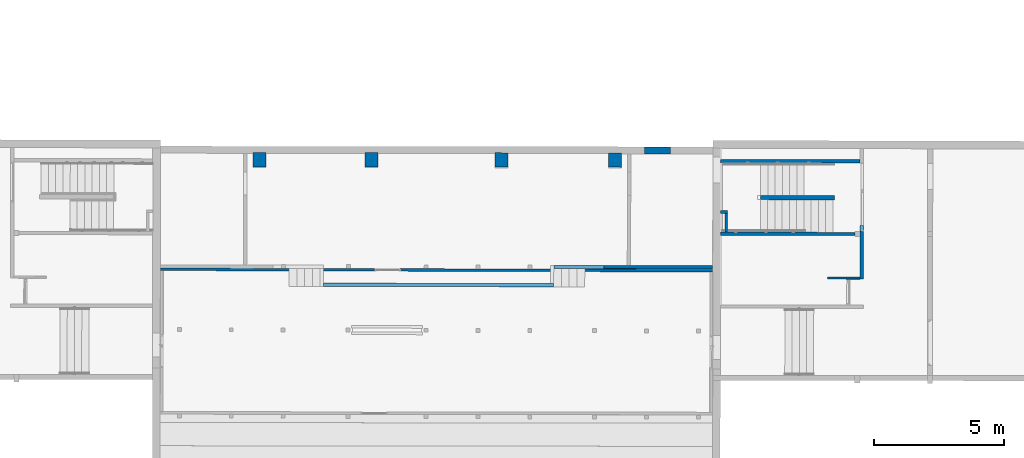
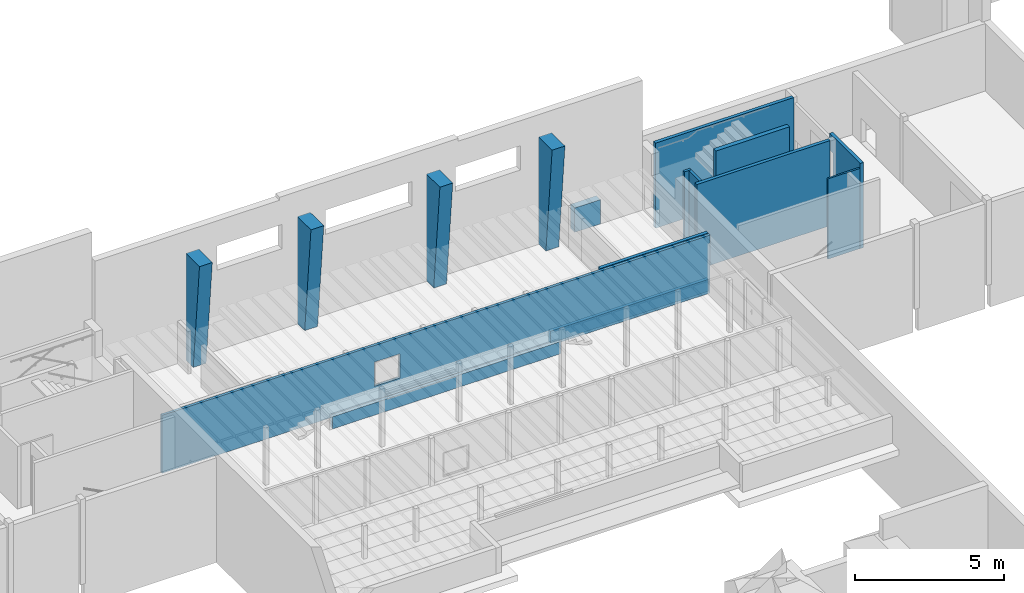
# One storey, part 9 of 24: 16 walls, 2 openings.
"""IFC2X3 building model written with IfcOpenShell, lengths in metres."""

from ifc_helpers import new_model, entity, si_unit, converted_unit, derived_unit, direction, frame, frame_2d, origin, place, context, subcontext, project, spatial, polyline, rectangle, outline, extrude, clip, halfspace, bounded_halfspace, material, layer, layer_set, layer_usage, type_object, element, save


model = new_model("IFC2X3")

# Units and contexts
model_context = context("Model", 3, precision=1e-05, world=origin(), true_north=direction((6.123233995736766e-17, 1.0)))
body_context = subcontext(model_context, "Body", "Model", "MODEL_VIEW")
ifc_project = project(units=[si_unit("LENGTHUNIT", "METRE"), si_unit("AREAUNIT", "SQUARE_METRE"), converted_unit("PLANEANGLEUNIT", "DEGREE", entity("IfcPlaneAngleMeasure", 0.017453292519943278), si_unit("PLANEANGLEUNIT", "RADIAN"), dimensions=[0, 0, 0, 0, 0, 0, 0]), derived_unit("THERMALTRANSMITTANCEUNIT", [(si_unit("MASSUNIT", "GRAM", prefix="KILO"), 1), (si_unit("THERMODYNAMICTEMPERATUREUNIT", "KELVIN"), -1), (si_unit("TIMEUNIT", "SECOND"), -3)])], contexts=[model_context])

# Site, building, storey
site_placement = place(None, frame((1253.6752467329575, 2072.143113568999, 91.49999999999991), z_axis=(0.0, 0.0, 1.0), x_axis=(0.7237211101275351, 0.6900925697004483, 0.0)))
site = spatial("IfcSite", under=ifc_project, at=site_placement, Name="Surface", CompositionType="ELEMENT")
building_placement = place(site_placement, origin())
building = spatial("IfcBuilding", under=site, at=building_placement, CompositionType="ELEMENT")
storey_placement = place(building_placement, frame((0.0, 0.0, -7.049999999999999)))
storey = spatial("IfcBuildingStorey", under=building, at=storey_placement, Name="R-1", CompositionType="ELEMENT", Elevation=-7.049999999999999)

# Walls
ifc_material_1 = material(Name="OMD_Béton blanc")
ifc_layer_1 = layer(ifc_material_1, 0.12999999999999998)
ifc_layer_set_1 = layer_set([ifc_layer_1], Name="Mur de base:MUR 13")
ifc_layer_usage_1 = layer_usage(ifc_layer_set_1, "AXIS2", "NEGATIVE", 0.06499999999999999)
wall_type_1 = type_object("IfcWallType", Name="Mur de base:MUR 13", PredefinedType="STANDARD", material=ifc_layer_set_1)
wall_1_placement = place(storey_placement, frame((195.20702705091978, -1.0797721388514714, 0.0), z_axis=(0.0, 0.0, 1.0), x_axis=(-0.7228702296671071, 0.6909838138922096, 0.0)))
element("IfcWallStandardCase", 1, at=wall_1_placement, inside=storey, type_object=wall_type_1, material=ifc_layer_usage_1, Name="Mur de base:MUR 13", ObjectType="Mur de base:MUR 13", context=body_context, shape_type="SweptSolid", body=[
    extrude(outline(polyline([(-0.06369331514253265, -2.6864775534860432), (0.06630670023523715, -2.6864775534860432), (0.06369329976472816, 2.686509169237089), (-0.06630668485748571, 2.686445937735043), (-0.06369331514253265, -2.6864775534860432)])), frame((2.686477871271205, 0.0, 0.0), z_axis=(0.0, 0.0, 1.0), x_axis=(0.0004863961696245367, 0.9999998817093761, 0.0)), (0.0, 0.0, 1.0), 3.499999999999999),
])
ifc_layer_usage_2 = layer_usage(ifc_layer_set_1, "AXIS2", "NEGATIVE", 0.06499999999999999)
wall_2_placement = place(storey_placement, frame((193.12769832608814, -2.965612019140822, 0.0), z_axis=(0.0, 0.0, 1.0), x_axis=(-0.7228702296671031, 0.6909838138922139, 0.0)))
element("IfcWallStandardCase", 2, at=wall_2_placement, inside=storey, type_object=wall_type_1, material=ifc_layer_usage_2, Name="Mur de base:MUR 13", ObjectType="Mur de base:MUR 13", context=body_context, shape_type="SweptSolid", body=[
    extrude(outline(polyline([(-0.06374162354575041, -2.5871585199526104), (0.06625839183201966, -2.5871585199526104), (0.06374160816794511, 2.587190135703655), (-0.0662583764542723, 2.5871269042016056), (-0.06374162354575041, -2.5871585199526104)])), frame((2.587158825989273, 0.0, 0.0), z_axis=(0.0, 0.0, 1.0), x_axis=(0.00048639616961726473, 0.9999998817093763, 0.0)), (0.0, 0.0, 1.0), 3.499999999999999),
])

# Wall, opening
ifc_layer_usage_3 = layer_usage(ifc_layer_set_1, "AXIS2", "NEGATIVE", 0.06499999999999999)
wall_3_placement = place(storey_placement, frame((193.54037648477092, -2.9174068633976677, 0.0), z_axis=(0.0, 0.0, 1.0), x_axis=(-0.690983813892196, -0.7228702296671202, 0.0)))
wall_3 = element("IfcWallStandardCase", 3, at=wall_3_placement, inside=storey, type_object=wall_type_1, material=ifc_layer_usage_3, Name="Mur de base:MUR 13", ObjectType="Mur de base:MUR 13", context=body_context, shape_type="SweptSolid", body=[
    extrude(rectangle(XDim=2.0549972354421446, YDim=0.12999999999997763, at=frame_2d((1.0274986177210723, 1.8735013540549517e-15), x_axis=(-1.0, 0.0))), origin(), (0.0, 0.0, 1.0), 3.499999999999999),
])
opening_1_placement = place(wall_3_placement, frame((131.6243609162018, -141.92045732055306, 0.7299999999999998)))
element("IfcOpeningElement", 4, at=opening_1_placement, cuts=wall_3, Name="Mur de base:MUR 13", ObjectType="Opening", context=body_context, shape_type="SweptSolid", body=[
    extrude(rectangle(XDim=2.085, YDim=1.5499999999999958, at=frame_2d((-3.3306690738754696e-16, 5.551115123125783e-17), x_axis=(1.0, 0.0))), frame((-132.17936091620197, 140.3614573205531, 1.0425000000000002), z_axis=(0.0, 1.0, 0.0), x_axis=(0.0, 0.0, 1.0)), (0.0, 0.0, 1.0), 3.048),
])

# Walls
ifc_layer_usage_4 = layer_usage(ifc_layer_set_1, "AXIS2", "NEGATIVE", 0.06499999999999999)
wall_4_placement = place(storey_placement, frame((185.25296293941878, 2.7841301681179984, 0.0), z_axis=(0.0, 0.0, 1.0), x_axis=(0.7228702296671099, -0.6909838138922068, 0.0)))
element("IfcWallStandardCase", 5, at=wall_4_placement, inside=storey, type_object=wall_type_1, material=ifc_layer_usage_4, Name="Mur de base:MUR 13", ObjectType="Mur de base:MUR 13", context=body_context, shape_type="SweptSolid", body=[
    extrude(outline(polyline([(-0.08546358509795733, -2.4734809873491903), (0.04453643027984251, -2.4734809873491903), (0.042996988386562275, 0.6915145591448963), (0.042933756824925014, 0.8215146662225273), (0.04249819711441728, 1.7169979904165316), (-0.08750178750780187, 1.716934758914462), (-0.08546358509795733, -2.4734809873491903)])), frame((1.7169771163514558, 0.021666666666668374, 0.0), z_axis=(0.0, 0.0, 1.0), x_axis=(0.00048639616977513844, 0.999999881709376, 0.0)), (0.0, 0.0, 1.0), 2.3950000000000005),
])
ifc_layer_usage_5 = layer_usage(ifc_layer_set_1, "AXIS2", "POSITIVE", -0.06499999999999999)
wall_5_placement = place(storey_placement, frame((176.95812200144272, 9.744585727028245, 0.0), z_axis=(0.0, 0.0, 1.0), x_axis=(0.7228704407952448, -0.6909835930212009, 0.0)))
element("IfcWallStandardCase", 6, at=wall_5_placement, inside=storey, type_object=wall_type_1, material=ifc_layer_usage_5, Name="Mur de base:MUR 13", ObjectType="Mur de base:MUR 13", context=body_context, shape_type="Clipping", body=[
    clip(extrude(outline(polyline([(0.0, -0.06499999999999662), (8.870089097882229, -0.06499999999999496), (8.870267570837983, 0.06499999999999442), (8.740267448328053, 0.06499999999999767), (0.00017847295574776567, 0.06500000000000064), (0.0, -0.06499999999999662)])), origin(), (0.0, 0.0, 1.0), 0.49999999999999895), bounded_halfspace(frame((0.0, -0.0649999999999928, 0.49999999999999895), z_axis=(0.0, 0.0, -1.0), x_axis=(3.055472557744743e-07, 1.0, 0.0)), True, frame((0.0, -0.0649999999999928, 0.49999999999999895)), polyline([(0.0, 0.0), (8.870089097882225, 0.0), (8.870267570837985, 0.1299999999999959), (8.74026744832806, 0.12999999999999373), (0.00017847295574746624, 0.12999999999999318), (0.0, 0.0)]))),
])
ifc_layer_usage_6 = layer_usage(ifc_layer_set_1, "AXIS2", "POSITIVE", -0.06499999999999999)
wall_6_placement = place(storey_placement, frame((183.85455854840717, 4.120849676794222, 0.0), z_axis=(0.0, 0.0, 1.0), x_axis=(0.7219211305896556, -0.6919753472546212, 0.0)))
element("IfcWallStandardCase", 7, at=wall_6_placement, inside=storey, type_object=wall_type_1, material=ifc_layer_usage_6, Name="Mur de base:MUR 13", ObjectType="Mur de base:MUR 13", context=body_context, shape_type="SweptSolid", body=[
    extrude(outline(polyline([(-0.0677138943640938, -3.0624817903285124), (0.06228615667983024, -3.0624817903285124), (0.06771384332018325, 3.0624241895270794), (-0.062286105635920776, 3.0625393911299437), (-0.0677138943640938, -3.0624817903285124)])), frame((3.0624829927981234, 0.0, 0.0), z_axis=(0.0, 0.0, 1.0), x_axis=(-0.0008861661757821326, 0.9999996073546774, 0.0)), (0.0, 0.0, 1.0), 0.49000000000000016),
])
ifc_layer_2 = layer(ifc_material_1, 0.17)
ifc_layer_set_2 = layer_set([ifc_layer_2], Name="Mur de base:MUR 17")
ifc_layer_usage_7 = layer_usage(ifc_layer_set_2, "AXIS2", "NEGATIVE", 0.085)
wall_type_2 = type_object("IfcWallType", Name="Mur de base:MUR 17", PredefinedType="STANDARD", material=ifc_layer_set_2)
wall_7_placement = place(storey_placement, frame((193.52400818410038, -1.4077164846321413, 0.0), z_axis=(0.0, 0.0, 1.0), x_axis=(-0.7228702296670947, 0.6909838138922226, 0.0)))
element("IfcWallStandardCase", 8, at=wall_7_placement, inside=storey, type_object=wall_type_2, material=ifc_layer_usage_7, Name="Mur de base:MUR 17", ObjectType="Mur de base:MUR 17", context=body_context, shape_type="SweptSolid", body=[
    extrude(rectangle(XDim=2.850000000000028, YDim=0.1700000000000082, at=frame_2d((1.4250000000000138, -2.130240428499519e-15), x_axis=(-1.0, 0.0))), origin(), (0.0, 0.0, 1.0), 3.499999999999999),
])
ifc_layer_3 = layer(ifc_material_1, 0.07)
ifc_layer_set_3 = layer_set([ifc_layer_3], Name="Mur de base:MUR 7")
ifc_layer_usage_8 = layer_usage(ifc_layer_set_3, "AXIS2", "NEGATIVE", 0.035)
wall_type_3 = type_object("IfcWallType", Name="Mur de base:MUR 7", PredefinedType="STANDARD", material=ifc_layer_set_3)
wall_8_placement = place(storey_placement, frame((191.19401673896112, -3.468959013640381, 0.0), z_axis=(0.0, 0.0, 1.0), x_axis=(0.7228702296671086, -0.6909838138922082, 0.0)))
element("IfcWallStandardCase", 9, at=wall_8_placement, inside=storey, type_object=wall_type_3, material=ifc_layer_usage_8, Name="Mur de base:MUR 7", ObjectType="Mur de base:MUR 7", context=body_context, shape_type="SweptSolid", body=[
    extrude(rectangle(XDim=1.2500000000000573, YDim=0.06999999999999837, at=frame_2d((0.6250000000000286, -5.447031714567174e-16), x_axis=(-1.0, 0.0))), origin(), (0.0, 0.0, 1.0), 3.2999999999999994),
])

# Wall, opening
ifc_material_2 = material(Name="OMD_Cloison 100mm CF1h")
ifc_layer_4 = layer(ifc_material_2, 0.1)
ifc_layer_set_4 = layer_set([ifc_layer_4], Name="Mur de base:Cloison 100mm CF1h")
ifc_layer_usage_9 = layer_usage(ifc_layer_set_4, "AXIS2", "POSITIVE", -0.05)
wall_type_4 = type_object("IfcWallType", Name="Mur de base:Cloison 100mm CF1h", PredefinedType="STANDARD", material=ifc_layer_set_4)
wall_9_placement = place(storey_placement, frame((172.82760201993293, 14.510521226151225, 0.0), z_axis=(0.0, 0.0, 1.0), x_axis=(0.7219211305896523, -0.6919753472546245, 0.0)))
wall_9 = element("IfcWallStandardCase", 10, at=wall_9_placement, inside=storey, type_object=wall_type_4, material=ifc_layer_usage_9, Name="Mur de base:Cloison 100mm CF1h", ObjectType="Mur de base:Cloison 100mm CF1h", context=body_context, shape_type="Clipping", body=[
    clip(extrude(outline(polyline([(21.27511487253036, -0.04999999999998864), (21.275026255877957, 0.049999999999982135), (0.0, 0.04999999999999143), (0.0, -0.04999999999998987), (0.09999999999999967, -0.049999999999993), (21.17511483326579, -0.04999999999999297), (21.27511487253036, -0.04999999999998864)])), origin(), (0.0, 0.0, 1.0), 2.3829999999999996), bounded_halfspace(frame((0.00046194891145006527, -0.050000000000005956, 2.3829999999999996), z_axis=(0.0, 0.0, -1.0), x_axis=(0.0013139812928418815, -0.9999991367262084, 0.0)), True, frame((0.00046194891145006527, -0.050000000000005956, 2.3829999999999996)), polyline([(0.0, 0.0), (21.274652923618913, 0.0), (21.27456430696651, 0.09999999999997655), (-0.00013139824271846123, 0.09999999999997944), (0.0, 0.0)]))),
])
opening_2_placement = place(wall_9_placement, frame((8.724430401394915, -0.7019516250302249, 0.7000000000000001)))
element("IfcOpeningElement", 11, at=opening_2_placement, cuts=wall_9, Name="Mur de base:Cloison 100mm CF1h", ObjectType="Opening", context=body_context, shape_type="SweptSolid", body=[
    extrude(rectangle(XDim=1.0, YDim=1.0000000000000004, at=frame_2d((0.0, 1.8485213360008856e-14), x_axis=(1.0, 0.0))), frame((0.02117011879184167, 0.4995516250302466, 0.5), z_axis=(0.0, 1.0, 0.0), x_axis=(0.0, 0.0, 1.0)), (0.0, 0.0, 1.0), 0.40479999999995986),
])

# Walls
ifc_layer_usage_10 = layer_usage(ifc_layer_set_4, "AXIS2", "NEGATIVE", 0.05)
wall_10_placement = place(storey_placement, frame((189.9681311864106, 1.2167790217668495, 0.0), z_axis=(0.0, 0.0, 1.0), x_axis=(0.7227070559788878, -0.6911544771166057, 0.0)))
element("IfcWallStandardCase", 12, at=wall_10_placement, inside=storey, type_object=wall_type_4, material=ifc_layer_usage_10, Name="Mur de base:Cloison 100mm CF1h", ObjectType="Mur de base:Cloison 100mm CF1h", context=body_context, shape_type="SweptSolid", body=[
    extrude(outline(polyline([(0.2739125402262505, -0.0500000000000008), (0.27391254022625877, 0.049999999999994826), (2.5027845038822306e-05, 0.05000000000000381), (0.0, -0.05000000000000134), (0.2739125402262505, -0.0500000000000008)])), origin(), (0.0, 0.0, 1.0), 3.499999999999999),
])
ifc_layer_usage_11 = layer_usage(ifc_layer_set_4, "AXIS2", "POSITIVE", -0.05)
wall_11_placement = place(storey_placement, frame((190.09539663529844, 1.0258855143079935, 0.7299999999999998), z_axis=(0.0, 0.0, 1.0), x_axis=(-0.6911544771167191, -0.7227070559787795, 0.0)))
element("IfcWallStandardCase", 13, at=wall_11_placement, inside=storey, type_object=wall_type_4, material=ifc_layer_usage_11, Name="Mur de base:Cloison 100mm CF1h", ObjectType="Mur de base:Cloison 100mm CF1h", context=body_context, shape_type="SweptSolid", body=[
    extrude(outline(polyline([(0.7250751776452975, -0.049999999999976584), (0.7250515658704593, 0.050000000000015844), (0.0, 0.050000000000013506), (0.0, -0.04999999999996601), (0.7250751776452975, -0.049999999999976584)])), origin(), (0.0, 0.0, 1.0), 2.769999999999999),
])
ifc_material_3 = material(Name="OMD tranche")
ifc_layer_5 = layer(ifc_material_3, 0.49999999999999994)
ifc_layer_set_5 = layer_set([ifc_layer_5], Name="Mur de base:poteaux BA 50")
ifc_layer_usage_12 = layer_usage(ifc_layer_set_5, "AXIS2", "NEGATIVE", 0.24999999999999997)
wall_type_5 = type_object("IfcWallType", Name="Mur de base:poteaux BA 50", PredefinedType="STANDARD", material=ifc_layer_set_5)
wall_12_placement = place(storey_placement, frame((181.81895634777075, 12.151604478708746, 0.6500000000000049), z_axis=(0.0, 0.0, 1.0), x_axis=(-0.6919753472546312, -0.7219211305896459, 0.0)))
element("IfcWallStandardCase", 14, at=wall_12_placement, inside=storey, type_object=wall_type_5, material=ifc_layer_usage_12, Name="Mur de base:poteaux BA 50", ObjectType="Mur de base:poteaux BA 50", context=body_context, shape_type="Clipping", body=[
    clip(clip(extrude(rectangle(XDim=0.9207844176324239, YDim=0.5000000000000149, at=frame_2d((0.46039220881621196, 1.4988010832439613e-15), x_axis=(-1.0, 0.0))), origin(), (0.0, 0.0, 1.0), 4.400034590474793), halfspace(frame((0.0, -0.24999999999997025, 4.391832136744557), z_axis=(-0.00890776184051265, 0.0, 0.9999603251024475), x_axis=(0.0, 1.0, 0.0)), False)), halfspace(frame((0.9207844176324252, -0.2499999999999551, 4.400034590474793), z_axis=(0.9954583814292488, 0.0, -0.09519774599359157), x_axis=(0.0, 1.0, 0.0)), False)),
])
ifc_layer_usage_13 = layer_usage(ifc_layer_set_5, "AXIS2", "NEGATIVE", 0.24999999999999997)
wall_13_placement = place(storey_placement, frame((185.44019299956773, 8.689581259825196, 0.6500000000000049), z_axis=(0.0, 0.0, 1.0), x_axis=(-0.6919753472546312, -0.7219211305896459, 0.0)))
element("IfcWallStandardCase", 15, at=wall_13_placement, inside=storey, type_object=wall_type_5, material=ifc_layer_usage_13, Name="Mur de base:poteaux BA 50", ObjectType="Mur de base:poteaux BA 50", context=body_context, shape_type="Clipping", body=[
    clip(clip(extrude(rectangle(XDim=0.9207844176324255, YDim=0.5000000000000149, at=frame_2d((0.46039220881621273, 2.248201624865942e-15), x_axis=(-1.0, 0.0))), origin(), (0.0, 0.0, 1.0), 4.400034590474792), halfspace(frame((0.0, -0.2499999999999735, 4.391832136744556), z_axis=(-0.008907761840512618, 0.0, 0.9999603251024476), x_axis=(0.0, 1.0, 0.0)), False)), halfspace(frame((0.9207844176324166, -0.24999999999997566, 4.400034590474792), z_axis=(0.9954583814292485, 0.0, -0.09519774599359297), x_axis=(0.0, 1.0, 0.0)), False)),
])
ifc_layer_usage_14 = layer_usage(ifc_layer_set_5, "AXIS2", "NEGATIVE", 0.24999999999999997)
wall_14_placement = place(storey_placement, frame((188.59189793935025, 5.676882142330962, 0.6500000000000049), z_axis=(0.0, 0.0, 1.0), x_axis=(-0.6919753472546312, -0.7219211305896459, 0.0)))
element("IfcWallStandardCase", 16, at=wall_14_placement, inside=storey, type_object=wall_type_5, material=ifc_layer_usage_14, Name="Mur de base:poteaux BA 50", ObjectType="Mur de base:poteaux BA 50", context=body_context, shape_type="Clipping", body=[
    clip(clip(extrude(rectangle(XDim=0.9207844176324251, YDim=0.5000000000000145, at=frame_2d((0.46039220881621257, 2.0816681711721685e-15), x_axis=(-1.0, 0.0))), origin(), (0.0, 0.0, 1.0), 4.400034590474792), halfspace(frame((0.0, -0.24999999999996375, 4.391832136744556), z_axis=(-0.008907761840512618, 0.0, 0.9999603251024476), x_axis=(0.0, 1.0, 0.0)), False)), halfspace(frame((0.9207844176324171, -0.24999999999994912, 4.400034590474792), z_axis=(0.9954583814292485, 0.0, -0.09519774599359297), x_axis=(0.0, 1.0, 0.0)), False)),
])
ifc_layer_usage_15 = layer_usage(ifc_layer_set_5, "AXIS2", "NEGATIVE", 0.24999999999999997)
wall_15_placement = place(storey_placement, frame((178.68857577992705, 15.143360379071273, 0.6500000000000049), z_axis=(0.0, 0.0, 1.0), x_axis=(-0.6919753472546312, -0.7219211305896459, 0.0)))
element("IfcWallStandardCase", 17, at=wall_15_placement, inside=storey, type_object=wall_type_5, material=ifc_layer_usage_15, Name="Mur de base:poteaux BA 50", ObjectType="Mur de base:poteaux BA 50", context=body_context, shape_type="Clipping", body=[
    clip(clip(extrude(rectangle(XDim=0.9207844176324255, YDim=0.5000000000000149, at=frame_2d((0.46039220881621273, 2.248201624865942e-15), x_axis=(-1.0, 0.0))), origin(), (0.0, 0.0, 1.0), 4.400034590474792), halfspace(frame((0.0, -0.24999999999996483, 4.391832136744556), z_axis=(-0.008907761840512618, 0.0, 0.9999603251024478), x_axis=(0.0, 1.0, 0.0)), False)), halfspace(frame((0.9207844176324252, -0.249999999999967, 4.400034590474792), z_axis=(0.9954583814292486, 0.0, -0.095197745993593), x_axis=(0.0, 1.0, 0.0)), False)),
])
ifc_layer_6 = layer(ifc_material_1, 0.27)
ifc_layer_set_6 = layer_set([ifc_layer_6], Name="Mur de base:MUR 27")
ifc_layer_usage_16 = layer_usage(ifc_layer_set_6, "AXIS2", "NEGATIVE", 0.135)
wall_type_6 = type_object("IfcWallType", Name="Mur de base:MUR 27", PredefinedType="STANDARD", material=ifc_layer_set_6)
wall_16_placement = place(storey_placement, frame((189.48230497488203, 4.966531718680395, 0.6500000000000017), z_axis=(0.0, 0.0, 1.0), x_axis=(0.7228702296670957, -0.6909838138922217, 0.0)))
element("IfcWallStandardCase", 18, at=wall_16_placement, inside=storey, type_object=wall_type_6, material=ifc_layer_usage_16, Name="Mur de base:MUR 27", ObjectType="Mur de base:MUR 27", context=body_context, shape_type="SweptSolid", body=[
    extrude(rectangle(XDim=1.000000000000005, YDim=0.2699999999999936, at=frame_2d((1.326716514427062e-14, 1.1199374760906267e-14), x_axis=(1.0, 0.0))), frame((0.5000000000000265, 0.0, 0.0), z_axis=(0.0, 0.0, 1.0), x_axis=(-1.0, 0.0, 0.0)), (0.0, 0.0, 1.0), 0.9999999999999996),
])

save(model, "model.ifc")
